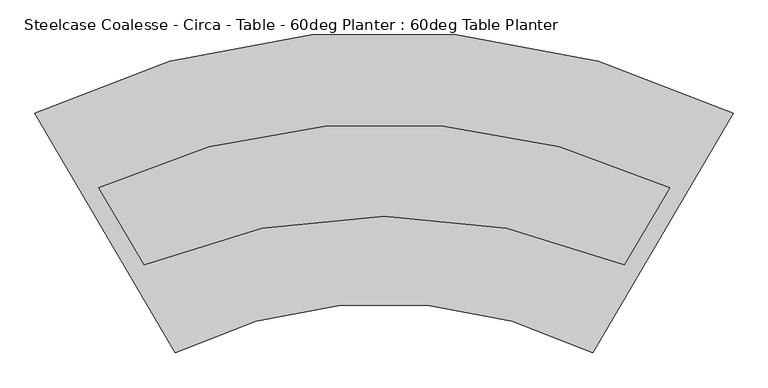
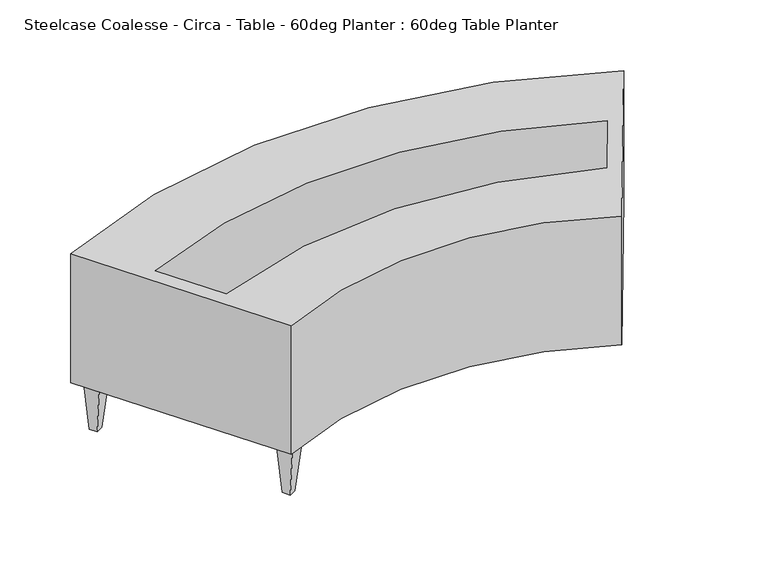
"""IFC4 building model written with IfcOpenShell, lengths in millimetres: furniture geometry, Steelcase Coalesse - Circa - Table - 60deg Planter : 60deg Table Planter."""

from ifc_helpers import new_model, si_unit, frame, origin, place, context, project, spatial, polyline, circle_curve, faceted_brep, source, transform, mapped, element, save
from ifc_brep_helpers import plane_surface, cylinder_surface, revolved_surface, advanced_brep


def steelcase_coalesse_circa_table_60deg_planter_60deg_table_712379bf(model_context):
    return source(origin(), model_context, "Body", "SolidModel", [
        faceted_brep([(-663.4678668, 969.5155572, 0.0), (-688.8641784, 969.9484071, 0.0), (-688.425424, 995.6911544, 0.0), (-663.0291124, 995.2583045, 0.0), (-651.3516597, 954.6307814, 159.258), (-650.484006, 1005.5380509, 159.258), (-701.2766292, 1006.4037506, 159.258), (-702.1442828, 955.4964811, 159.258)], [[[0, 1, 2, 3]], [[4, 5, 6, 7]], [[4, 7, 1, 0]], [[7, 6, 2, 1]], [[6, 5, 3, 2]], [[5, 4, 0, 3]]]),
        faceted_brep([(-1482.0410863, 793.7676276, 0.0), (-1504.3590763, 781.640496, 0.0), (-1516.6516364, 804.2629298, 0.0), (-1494.3336464, 816.3900614, 0.0), (-1464.1666501, 786.7773805, 159.258), (-1488.4756587, 831.5141105, 159.258), (-1533.1116388, 807.2598473, 159.258), (-1508.8026301, 762.5231173, 159.258)], [[[0, 1, 2, 3]], [[4, 5, 6, 7]], [[4, 7, 1, 0]], [[7, 6, 2, 1]], [[6, 5, 3, 2]], [[5, 4, 0, 3]]]),
        faceted_brep([(-1166.829404, 254.0618902, 0.0), (-1189.1473912, 241.9347532, 0.0), (-1201.4399566, 264.5571841, 0.0), (-1179.1219695, 276.6843211, 0.0), (-1148.9549661, 247.0716474, 159.258), (-1173.2639855, 291.8083716, 159.258), (-1217.8999597, 267.5540977, 159.258), (-1193.5909404, 222.8173735, 159.258)], [[[0, 1, 2, 3]], [[4, 5, 6, 7]], [[4, 7, 1, 0]], [[7, 6, 2, 1]], [[6, 5, 3, 2]], [[5, 4, 0, 3]]]),
        advanced_brep(
        [(-1200.2883747, 216.2403236, 601.472), (-127.5294064, 216.2403236, 601.472), (233.3449991, 831.3312675, 601.472), (-1561.1747823, 831.3312675, 601.472), (-1396.4959937, 640.3131524, 601.472), (69.9996179, 640.3131524, 601.472), (-46.0612613, 442.4936488, 601.472), (-1280.4312545, 442.4936488, 601.472), (-1200.2883747, 216.2403236, 159.258), (-1561.1747823, 831.3312675, 159.258), (233.3449991, 831.3312675, 159.258), (-127.5294064, 216.2403236, 159.258), (-1396.4959937, 640.3131524, 212.7134037), (69.9996179, 640.3131524, 212.7134037), (-46.0612613, 442.4936488, 212.7134037), (-1280.4312545, 442.4936488, 212.7134037)],
        [
            (0, 1, circle_curve(frame((-663.9088905, -848.8173526, 601.472), z_axis=(0.0, 0.0, -1.0), x_axis=(1.0, 0.0, 0.0)), 1192.4977168)),
            (1, 2),
            (2, 3, circle_curve(frame((-663.9148916, -979.7207171, 601.472), z_axis=(0.0, 0.0, 1.0), x_axis=(1.0, 0.0, 0.0)), 2021.134484)),
            (3, 0),
            (4, 5, circle_curve(frame((-663.2481879, -909.7864197, 601.472), z_axis=(0.0, 0.0, -1.0), x_axis=(1.0, 0.0, 0.0)), 1714.7772531)),
            (5, 6),
            (6, 7, circle_curve(frame((-663.2462579, -1028.7219745, 601.472), z_axis=(0.0, 0.0, 1.0), x_axis=(1.0, 0.0, 0.0)), 1595.4286979)),
            (7, 4),
            (8, 9),
            (9, 10, circle_curve(frame((-663.9148916, -979.7207171, 159.258), z_axis=(0.0, 0.0, -1.0), x_axis=(1.0, 0.0, 0.0)), 2021.134484)),
            (10, 11),
            (11, 8, circle_curve(frame((-663.9088905, -848.8173526, 159.258), z_axis=(0.0, 0.0, 1.0), x_axis=(1.0, 0.0, 0.0)), 1192.4977168)),
            (0, 8),
            (11, 1),
            (10, 2),
            (9, 3),
            (4, 12),
            (12, 13, circle_curve(frame((-663.2481879, -909.7864197, 212.7134037), z_axis=(0.0, 0.0, -1.0), x_axis=(1.0, 0.0, 0.0)), 1714.7772531)),
            (13, 5),
            (13, 14),
            (14, 6),
            (14, 15, circle_curve(frame((-663.2462579, -1028.7219745, 212.7134037), z_axis=(0.0, 0.0, 1.0), x_axis=(1.0, 0.0, 0.0)), 1595.4286979)),
            (15, 7),
            (15, 12),
        ],
        [
            plane_surface(frame((528.5888263, -848.8173526, 601.472), z_axis=(0.0, 0.0, 1.0), x_axis=(0.0, -1.0, 0.0))),
            plane_surface(frame((528.5888263, -848.8173526, 159.258), z_axis=(0.0, 0.0, -1.0), x_axis=(0.0, 1.0, 0.0))),
            revolved_surface(polyline([(528.5888263, -848.8173526, 159.258), (528.5888263, -848.8173526, 601.472)]), (-663.9088905, -848.8173526, 159.258), (0.0, 0.0, -1.0)),
            plane_surface(frame((-127.5294064, 216.2403236, 601.472), z_axis=(0.8625120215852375, -0.506036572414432, 0.0), x_axis=(0.0, 0.0, -1.0))),
            cylinder_surface(frame((-663.9148916, -979.7207171, 159.258), z_axis=(0.0, 0.0, 1.0), x_axis=(1.0, 0.0, 0.0)), 2021.134484),
            plane_surface(frame((-1561.1747823, 831.3312675, 601.472), z_axis=(-0.8625046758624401, -0.506049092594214, 0.0), x_axis=(0.0, 0.0, -1.0))),
            revolved_surface(polyline([(1051.5290652, -909.7864197, 212.7134037), (1051.5290652, -909.7864197, 601.472)]), (-663.2481879, -909.7864197, 0.0), (0.0, 0.0, -1.0)),
            plane_surface(frame((69.9996179, 640.3131524, 601.472), z_axis=(-0.8625120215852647, 0.5060365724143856, 0.0), x_axis=(0.0, 0.0, -1.0))),
            cylinder_surface(frame((-663.2462579, -1028.7219745, 0.0), z_axis=(0.0, 0.0, 1.0), x_axis=(1.0, 0.0, 0.0)), 1595.4286979),
            plane_surface(frame((-1280.4312545, 442.4936488, 601.472), z_axis=(0.8625046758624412, 0.5060490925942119, 0.0), x_axis=(0.0, 0.0, -1.0))),
            plane_surface(frame((-1284.0265829, 448.6214881, 212.7134037), z_axis=(0.0, 0.0, 1.0), x_axis=(0.5060490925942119, -0.8625046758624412, 0.0))),
        ],
        [
            (0, [[1, 2, 3, 4], [5, 6, 7, 8]]),
            (1, [[9, 10, 11, 12]]),
            (2, [[-1, 13, -12, 14]]),
            (3, [[-2, -14, -11, 15]]),
            (4, [[-3, -15, -10, 16]]),
            (5, [[-4, -16, -9, -13]]),
            (6, [[-5, 17, 18, 19]]),
            (7, [[-6, -19, 20, 21]]),
            (8, [[-7, -21, 22, 23]]),
            (9, [[-8, -23, 24, -17]]),
            (10, [[-18, -24, -22, -20]]),
        ],
    ),
    ])


if __name__ == "__main__":
    model = new_model("IFC4")
    model_context = context("Model", 3, world=origin())
    ifc_project = project(units=[si_unit("LENGTHUNIT", "METRE", prefix="MILLI")], contexts=[model_context])
    site = spatial("IfcSite", under=ifc_project)
    building = spatial("IfcBuilding", under=site)
    placement = place(None, origin())
    steelcase_coalesse_circa_table_60deg_planter_60deg_table_shape = steelcase_coalesse_circa_table_60deg_planter_60deg_table_712379bf(model_context)
    element("IfcFurniture", 1, ObjectType="Steelcase Coalesse - Circa - Table - 60deg Planter : 60deg Table Planter", at=placement, inside=building, context=model_context, shape_type="MappedRepresentation", body=[
        mapped(steelcase_coalesse_circa_table_60deg_planter_60deg_table_shape, transform((0.0, 0.0, 0.0), x_axis=(1.0, 0.0, 0.0), y_axis=(0.0, 1.0, 0.0), z_axis=(0.0, 0.0, 1.0))),
    ])
    save(model, "model.ifc")
